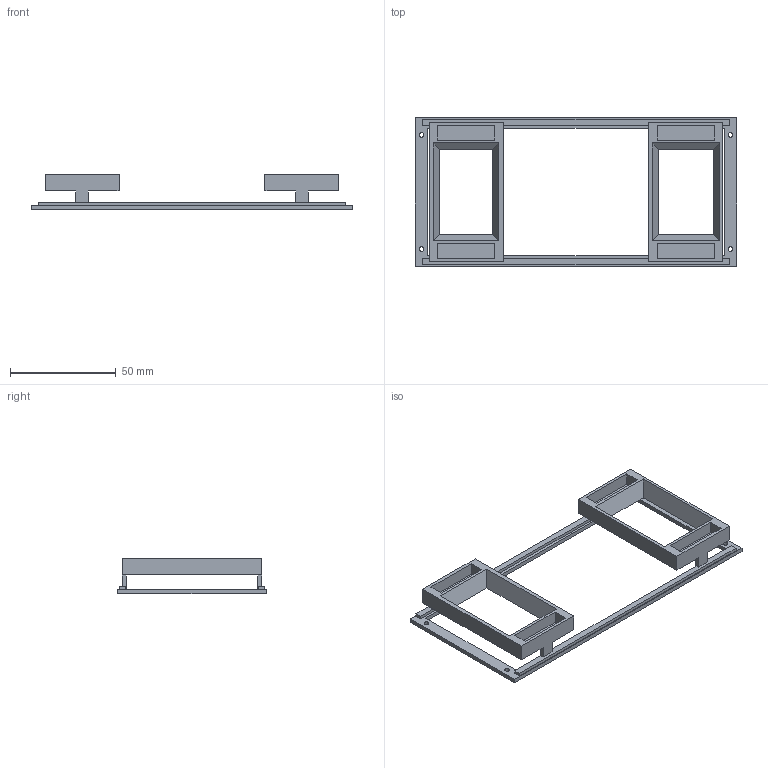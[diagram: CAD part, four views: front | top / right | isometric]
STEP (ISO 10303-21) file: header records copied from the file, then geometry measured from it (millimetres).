
FILE_DESCRIPTION(('Open CASCADE Model'),'2;1');
FILE_NAME('Open CASCADE Shape Model','2026-09-13T17:41:40',('Author'),( 'Open CASCADE'),'Open CASCADE STEP processor 7.8','Open CASCADE 7.8' ,'Unknown');
FILE_SCHEMA(('AUTOMOTIVE_DESIGN { 1 0 10303 214 1 1 1 1 }'));
Length unit declared in the file: millimetre
Products named in the file (1): Open CASCADE STEP translator 7.8 13
Bounding box: 152 x 70 x 17 mm (x, y, z)
Volume: 18325.3 mm3; surface area: 18729.9 mm2
Topology: 1 solids, 1 shells, 80 faces, 228 edges, 152 vertices
Faces by surface type: plane 68, bspline 8, cylinder 4
Full cylindrical faces by diameter (mm): 2.2 x4
Entity records: 5358 total; most frequent: CARTESIAN_POINT 1153, DIRECTION 626, ORIENTED_EDGE 456, LINE 456, VECTOR 456, PCURVE 456, DEFINITIONAL_REPRESENTATION 456, EDGE_CURVE 228
